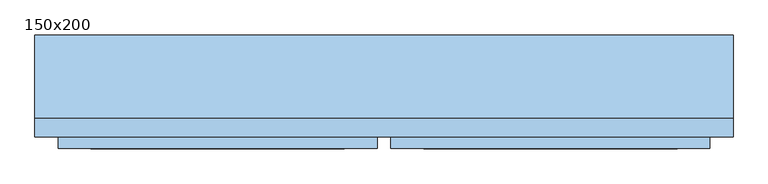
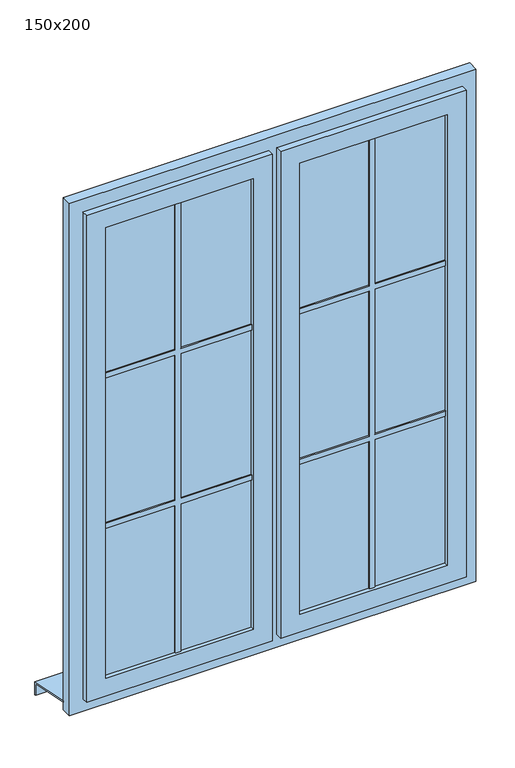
"""IFC4 building model written with IfcOpenShell, lengths in millimetres: window geometry, OKNO_2X_W_SZ : 150x200."""

from ifc_helpers import new_model, si_unit, frame, origin, place, context, project, spatial, polyline, outline, extrude, faceted_brep, source, transform, mapped, element, save


def window_150x200_9b3c3a3c(model_context):
    return source(origin(), model_context, "Body", "SolidModel", [
        extrude(outline(polyline([(90.0, 879.9063553), (90.0, 885.0), (270.0, 850.0), (270.0, 800.0), (265.0, 800.0), (265.0, 845.8785775), (90.0, 879.9063553)])), frame((-750.0, 0.0, 0.0), z_axis=(1.0, 0.0, 0.0), x_axis=(0.0, 1.0, 0.0)), (0.0, 0.0, 1.0), 1500.0),
        extrude(outline(polyline([(2153.3333333, -367.5), (2153.3333333, -630.0), (2133.3333333, -630.0), (2133.3333333, -367.5), (1566.6666667, -367.5), (1566.6666667, -630.0), (1546.6666667, -630.0), (1546.6666667, -367.5), (970.0, -367.5), (970.0, -347.5), (1546.6666667, -347.5), (1546.6666667, -85.0), (1566.6666667, -85.0), (1566.6666667, -347.5), (2133.3333333, -347.5), (2133.3333333, -85.0), (2153.3333333, -85.0), (2153.3333333, -347.5), (2730.0, -347.5), (2730.0, -367.5), (2153.3333333, -367.5)])), frame((0.0, 35.0, 0.0), z_axis=(0.0, 1.0, 0.0), x_axis=(0.0, 0.0, 1.0)), (0.0, 0.0, 1.0), 20.0),
        extrude(outline(polyline([(1546.6666667, 367.5), (1546.6666667, 630.0), (1566.6666667, 630.0), (1566.6666667, 367.5), (2133.3333333, 367.5), (2133.3333333, 630.0), (2153.3333333, 630.0), (2153.3333333, 367.5), (2730.0, 367.5), (2730.0, 347.5), (2153.3333333, 347.5), (2153.3333333, 85.0), (2133.3333333, 85.0), (2133.3333333, 347.5), (1566.6666667, 347.5), (1566.6666667, 85.0), (1546.6666667, 85.0), (1546.6666667, 347.5), (970.0, 347.5), (970.0, 367.5), (1546.6666667, 367.5)])), frame((0.0, 35.0, 0.0), z_axis=(0.0, 1.0, 0.0), x_axis=(0.0, 0.0, 1.0)), (0.0, 0.0, 1.0), 20.0),
        extrude(outline(polyline([(-85.0, 50.0), (-85.0, 40.0), (-630.0, 40.0), (-630.0, 50.0), (-85.0, 50.0)])), frame((0.0, 0.0, 970.0), z_axis=(0.0, 0.0, 1.0), x_axis=(1.0, 0.0, 0.0)), (0.0, 0.0, 1.0), 1760.0),
        extrude(outline(polyline([(630.0, 50.0), (630.0, 40.0), (85.0, 40.0), (85.0, 50.0), (630.0, 50.0)])), frame((0.0, 0.0, 970.0), z_axis=(0.0, 0.0, 1.0), x_axis=(1.0, 0.0, 0.0)), (0.0, 0.0, 1.0), 1760.0),
        faceted_brep([(-85.0, 25.0, 2730.0), (-85.0, 65.0, 2730.0), (-85.0, 65.0, 970.0), (-85.0, 25.0, 970.0), (-35.0, 65.0, 2780.0), (-35.0, 65.0, 920.0), (-680.0, 65.0, 920.0), (-680.0, 65.0, 2780.0), (-630.0, 65.0, 2730.0), (-630.0, 65.0, 970.0), (-630.0, 25.0, 970.0), (-700.0, 25.0, 2800.0), (-700.0, 25.0, 900.0), (-15.0, 25.0, 900.0), (-15.0, 25.0, 2800.0), (-630.0, 25.0, 2730.0), (-15.0, 50.0, 2800.0), (-15.0, 50.0, 900.0), (-700.0, 50.0, 900.0), (-700.0, 50.0, 2800.0), (-680.0, 50.0, 2780.0), (-680.0, 50.0, 920.0), (-35.0, 50.0, 920.0), (-35.0, 50.0, 2780.0)], [[[0, 1, 2, 3]], [[4, 5, 6, 7], [8, 9, 2, 1]], [[3, 2, 9, 10]], [[11, 12, 13, 14], [0, 3, 10, 15]], [[16, 14, 13, 17]], [[17, 13, 12, 18]], [[16, 17, 18, 19], [20, 21, 22, 23]], [[4, 23, 22, 5]], [[5, 22, 21, 6]], [[10, 9, 8, 15]], [[18, 12, 11, 19]], [[6, 21, 20, 7]], [[15, 8, 1, 0]], [[19, 11, 14, 16]], [[7, 20, 23, 4]]]),
        faceted_brep([(630.0, 25.0, 2730.0), (630.0, 65.0, 2730.0), (630.0, 65.0, 970.0), (630.0, 25.0, 970.0), (85.0, 65.0, 970.0), (85.0, 25.0, 970.0), (35.0, 65.0, 920.0), (35.0, 65.0, 2780.0), (680.0, 65.0, 2780.0), (680.0, 65.0, 920.0), (85.0, 65.0, 2730.0), (85.0, 25.0, 2730.0), (700.0, 25.0, 900.0), (700.0, 25.0, 2800.0), (15.0, 25.0, 2800.0), (15.0, 25.0, 900.0), (700.0, 50.0, 2800.0), (700.0, 50.0, 900.0), (15.0, 50.0, 900.0), (15.0, 50.0, 2800.0), (680.0, 50.0, 920.0), (680.0, 50.0, 2780.0), (35.0, 50.0, 2780.0), (35.0, 50.0, 920.0)], [[[0, 1, 2, 3]], [[3, 2, 4, 5]], [[6, 7, 8, 9], [2, 1, 10, 4]], [[5, 4, 10, 11]], [[12, 13, 14, 15], [5, 11, 0, 3]], [[16, 13, 12, 17]], [[17, 12, 15, 18]], [[18, 15, 14, 19]], [[18, 19, 16, 17], [20, 21, 22, 23]], [[8, 21, 20, 9]], [[9, 20, 23, 6]], [[6, 23, 22, 7]], [[11, 10, 1, 0]], [[19, 14, 13, 16]], [[7, 22, 21, 8]]]),
        extrude(outline(polyline([(2850.0, 750.0), (2850.0, -750.0), (850.0, -750.0), (850.0, 750.0), (2850.0, 750.0)]), holes=[polyline([(2780.0, 680.0), (920.0, 680.0), (920.0, 35.0), (2780.0, 35.0), (2780.0, 680.0)]), polyline([(2780.0, -35.0), (920.0, -35.0), (920.0, -680.0), (2780.0, -680.0), (2780.0, -35.0)])]), frame((0.0, 50.0, 0.0), z_axis=(0.0, 1.0, 0.0), x_axis=(0.0, 0.0, 1.0)), (0.0, 0.0, 1.0), 40.0),
    ])


if __name__ == "__main__":
    model = new_model("IFC4")
    model_context = context("Model", 3, world=origin())
    ifc_project = project(units=[si_unit("LENGTHUNIT", "METRE", prefix="MILLI")], contexts=[model_context])
    site = spatial("IfcSite", under=ifc_project)
    building = spatial("IfcBuilding", under=site)
    placement = place(None, origin())
    window_150x200_shape = window_150x200_9b3c3a3c(model_context)
    element("IfcWindow", 1, ObjectType="OKNO_2X_W_SZ : 150x200", at=placement, inside=building, context=model_context, shape_type="MappedRepresentation", body=[
        mapped(window_150x200_shape, transform((0.0, 0.0, 0.0), x_axis=(1.0, 0.0, 0.0), y_axis=(0.0, 1.0, 0.0), z_axis=(0.0, 0.0, 1.0))),
    ])
    save(model, "model.ifc")
